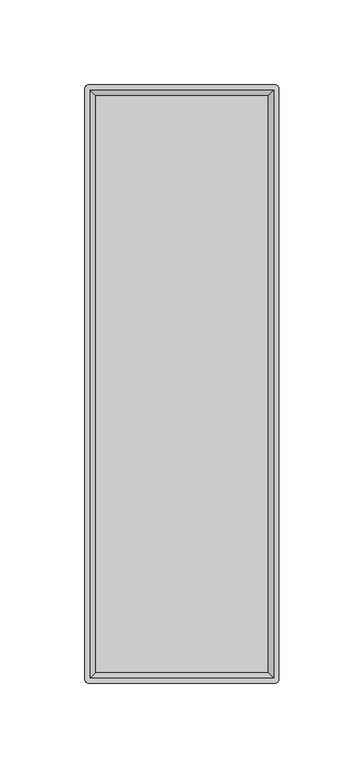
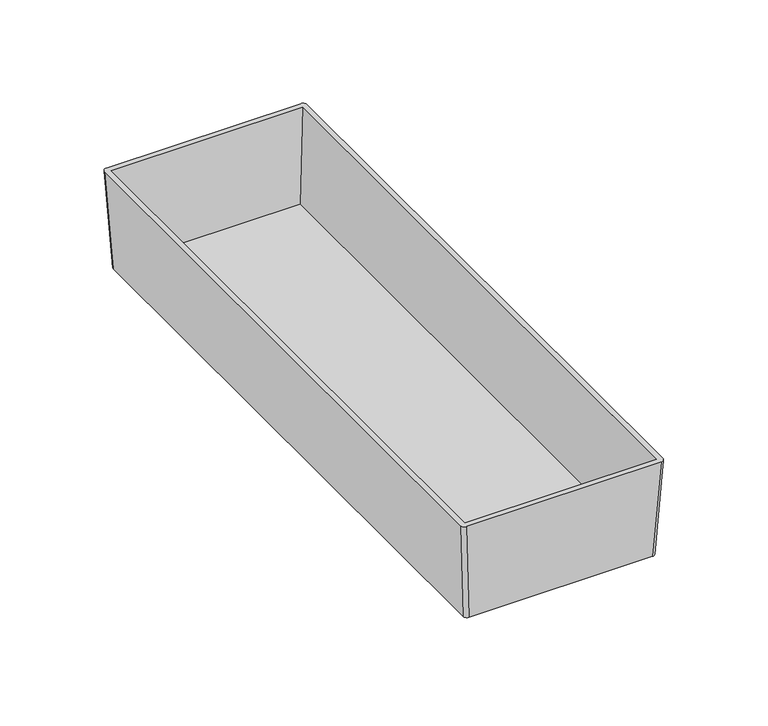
"""IFC4 building model written with IfcOpenShell, lengths in millimetres: furniture geometry."""

from ifc_helpers import new_model, si_unit, point, frame, origin, place, context, project, spatial, circle_curve, trimmed, source, transform, mapped, element, save
from ifc_brep_helpers import plane_surface, extruded_surface, advanced_brep


def furniture_e8b0ce59(model_context):
    return source(origin(), model_context, "Body", "AdvancedBrep", [
        advanced_brep(
        [(51.7525, 173.0375, 1507.49), (53.975, 170.815, 1507.49), (53.975, -170.815, 1507.49), (51.7525, -173.0375, 1507.49), (-51.7525, -173.0375, 1507.49), (-53.975, -170.815, 1507.49), (-53.975, 170.815, 1507.49), (-51.7525, 173.0375, 1507.49), (54.9275, 176.2125, 1564.64), (-54.9275, 176.2125, 1564.64), (-57.15, 173.99, 1564.64), (-57.15, -173.99, 1564.64), (-54.9275, -176.2125, 1564.64), (54.9275, -176.2125, 1564.64), (57.15, -173.99, 1564.64), (57.15, 173.99, 1564.64), (-53.975, 173.0375, 1564.64), (53.975, 173.0375, 1564.64), (53.975, -173.0375, 1564.64), (-53.975, -173.0375, 1564.64), (50.8, 169.8625, 1510.03), (-50.8, 169.8625, 1510.03), (-50.8, -169.8625, 1510.03), (50.8, -169.8625, 1510.03)],
        [
            (0, 1, circle_curve(frame((51.7525, 170.815, 1507.49), z_axis=(0.0, 0.0, -1.0), x_axis=(-1.0, 0.0, 0.0)), 2.2225)),
            (1, 2),
            (2, 3, circle_curve(frame((51.7525, -170.815, 1507.49), z_axis=(0.0, 0.0, -1.0), x_axis=(-1.0, 0.0, 0.0)), 2.2225)),
            (3, 4),
            (4, 5, circle_curve(frame((-51.7525, -170.815, 1507.49), z_axis=(0.0, 0.0, -1.0), x_axis=(-1.0, 0.0, 0.0)), 2.2225)),
            (5, 6),
            (6, 7, circle_curve(frame((-51.7525, 170.815, 1507.49), z_axis=(0.0, 0.0, -1.0), x_axis=(-1.0, 0.0, 0.0)), 2.2225)),
            (7, 0),
            (8, 9),
            (9, 10, circle_curve(frame((-54.9275, 173.99, 1564.64), z_axis=(0.0, 0.0, 1.0), x_axis=(-1.0, 0.0, 0.0)), 2.2225)),
            (10, 11),
            (11, 12, circle_curve(frame((-54.9275, -173.99, 1564.64), z_axis=(0.0, 0.0, 1.0), x_axis=(-1.0, 0.0, 0.0)), 2.2225)),
            (12, 13),
            (13, 14, circle_curve(frame((54.9275, -173.99, 1564.64), z_axis=(0.0, 0.0, 1.0), x_axis=(-1.0, 0.0, 0.0)), 2.2225)),
            (14, 15),
            (15, 8, circle_curve(frame((54.9275, 173.99, 1564.64), z_axis=(0.0, 0.0, 1.0), x_axis=(-1.0, 0.0, 0.0)), 2.2225)),
            (16, 17),
            (17, 18),
            (18, 19),
            (19, 16),
            (7, 9),
            (8, 0),
            (6, 10),
            (5, 11),
            (4, 12),
            (3, 13),
            (2, 14),
            (1, 15),
            (20, 21),
            (21, 22),
            (22, 23),
            (23, 20),
            (20, 17),
            (16, 21),
            (19, 22),
            (18, 23),
        ],
        [
            plane_surface(frame((0.0, 0.0, 1507.49), z_axis=(0.0, 0.0, -1.0), x_axis=(-1.0, 0.0, 0.0))),
            plane_surface(frame((0.0, 0.0, 1564.64), z_axis=(0.0, 0.0, 1.0), x_axis=(-1.0, 0.0, 0.0))),
            plane_surface(frame((0.0, 176.2125, 1564.64), z_axis=(0.0, 0.9984603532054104, -0.05547001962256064), x_axis=(1.0, 0.0, 0.0))),
            extruded_surface(trimmed(circle_curve(frame((-54.9275, 173.99, 1564.64), z_axis=(0.0, 0.0, -1.0), x_axis=(-1.0, 0.0, 0.0)), 2.2225), [point((-57.15, 173.99, 1564.64))], [point((-54.9275, 176.2125, 1564.64))], True, "CARTESIAN"), (3.1750000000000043, -3.1750000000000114, -57.15000000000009), 57.32611752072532),
            plane_surface(frame((-57.15, 0.0, 1564.64), z_axis=(-0.998460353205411, 0.0, -0.05547001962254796), x_axis=(0.0, 1.0, 0.0))),
            extruded_surface(trimmed(circle_curve(frame((-54.9275, -173.99, 1564.64), z_axis=(0.0, 0.0, -1.0), x_axis=(-1.0, 0.0, 0.0)), 2.2225), [point((-54.9275, -176.2125, 1564.64))], [point((-57.15, -173.99, 1564.64))], True, "CARTESIAN"), (3.1750000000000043, 3.1750000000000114, -57.15000000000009), 57.32611752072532),
            plane_surface(frame((0.0, -176.2125, 1564.64), z_axis=(0.0, -0.9984603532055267, -0.05547001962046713), x_axis=(-1.0, 0.0, 0.0))),
            extruded_surface(trimmed(circle_curve(frame((54.9275, -173.99, 1564.64), z_axis=(0.0, 0.0, -1.0), x_axis=(-1.0, 0.0, 0.0)), 2.2225), [point((57.15, -173.99, 1564.64))], [point((54.9275, -176.2125, 1564.64))], True, "CARTESIAN"), (-3.1750000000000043, 3.1750000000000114, -57.15000000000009), 57.32611752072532),
            plane_surface(frame((57.15, 0.0, 1564.64), z_axis=(0.998460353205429, 0.0, -0.055470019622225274), x_axis=(0.0, -1.0, 0.0))),
            extruded_surface(trimmed(circle_curve(frame((54.9275, 173.99, 1564.64), z_axis=(0.0, 0.0, -1.0), x_axis=(-1.0, 0.0, 0.0)), 2.2225), [point((54.9275, 176.2125, 1564.64))], [point((57.15, 173.99, 1564.64))], True, "CARTESIAN"), (-3.1750000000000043, -3.1750000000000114, -57.15000000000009), 57.32611752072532),
            plane_surface(frame((0.0, 0.0, 1510.03), z_axis=(0.0, 0.0, 1.0), x_axis=(-1.0, 0.0, 0.0))),
            plane_surface(frame((0.0, 173.0375, 1564.64), z_axis=(0.0, -0.9983141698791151, 0.05804152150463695), x_axis=(1.0, 0.0, 0.0))),
            plane_surface(frame((-53.975, 0.0, 1564.64), z_axis=(0.9983141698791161, 0.0, 0.058041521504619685), x_axis=(0.0, 1.0, 0.0))),
            plane_surface(frame((0.0, -173.0375, 1564.64), z_axis=(0.0, 0.9983141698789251, 0.0580415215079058), x_axis=(-1.0, 0.0, 0.0))),
            plane_surface(frame((53.975, 0.0, 1564.64), z_axis=(-0.998314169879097, 0.0, 0.058041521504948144), x_axis=(0.0, -1.0, 0.0))),
        ],
        [
            (0, [[1, 2, 3, 4, 5, 6, 7, 8]]),
            (1, [[9, 10, 11, 12, 13, 14, 15, 16], [17, 18, 19, 20]]),
            (2, [[-8, 21, -9, 22]]),
            (3, [[-7, 23, -10, -21]]),
            (4, [[-6, 24, -11, -23]]),
            (5, [[-5, 25, -12, -24]]),
            (6, [[-4, 26, -13, -25]]),
            (7, [[-3, 27, -14, -26]]),
            (8, [[-2, 28, -15, -27]]),
            (9, [[-1, -22, -16, -28]]),
            (10, [[29, 30, 31, 32]]),
            (11, [[-29, 33, -17, 34]]),
            (12, [[-30, -34, -20, 35]]),
            (13, [[-31, -35, -19, 36]]),
            (14, [[-32, -36, -18, -33]]),
        ],
    ),
    ])


if __name__ == "__main__":
    model = new_model("IFC4")
    model_context = context("Model", 3, world=origin())
    ifc_project = project(units=[si_unit("LENGTHUNIT", "METRE", prefix="MILLI")], contexts=[model_context])
    site = spatial("IfcSite", under=ifc_project)
    building = spatial("IfcBuilding", under=site)
    placement = place(None, origin())
    furniture_shape = furniture_e8b0ce59(model_context)
    element("IfcFurniture", 1, ObjectType="HermanMiller_CoStruc_CO231_Subcontainer : 2 1/4\"H x 13 7/8\"D x 4 1/2\"W", at=placement, inside=building, context=model_context, shape_type="MappedRepresentation", body=[
        mapped(furniture_shape, transform((0.0, 0.0, 0.0), x_axis=(1.0, 0.0, 0.0), y_axis=(0.0, 1.0, 0.0), z_axis=(0.0, 0.0, 1.0))),
    ])
    save(model, "model.ifc")
